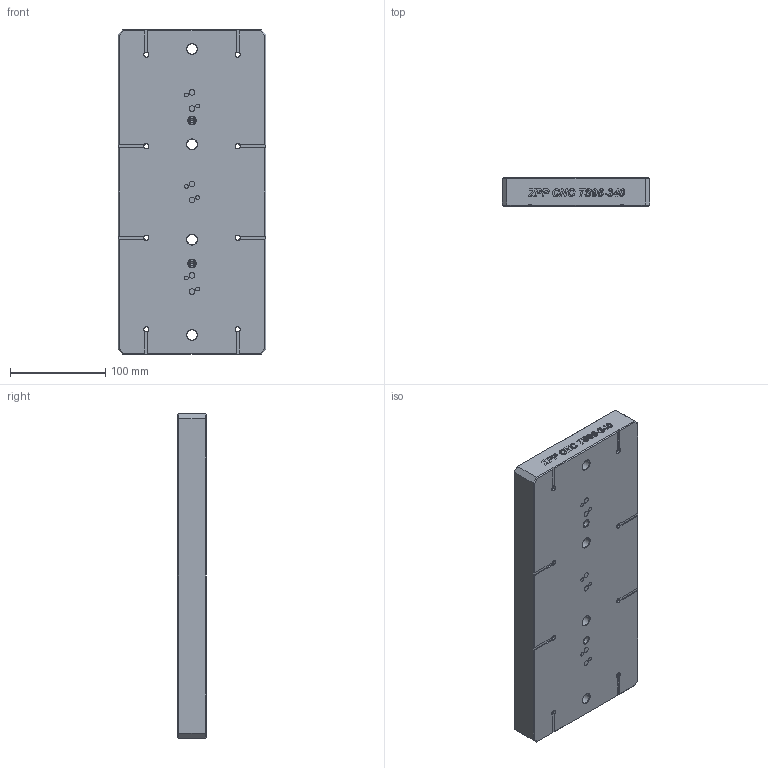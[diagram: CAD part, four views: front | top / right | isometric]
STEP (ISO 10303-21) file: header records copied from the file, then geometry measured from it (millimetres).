
FILE_DESCRIPTION((''),'2;1');
FILE_NAME('TS96-T155340','2024-07-17T20:08:52',('XF'),(''),'CREO PARAMETRIC BY PTC INC, 2022073','CREO PARAMETRIC BY PTC INC, 2022073','');
FILE_SCHEMA(('CONFIG_CONTROL_DESIGN'));
Length unit declared in the file: millimetre
Products named in the file (1): TS96-T155340
Bounding box: 155 x 30 x 340 mm (x, y, z)
Volume: 1491607 mm3; surface area: 155785.7 mm2
Topology: 1 solids, 15 shells, 929 faces, 2448 edges, 1584 vertices
Faces by surface type: extrusion 376, plane 297, cylinder 158, cone 82, torus 16
Entity records: 29869 total; most frequent: CARTESIAN_POINT 8126, ORIENTED_EDGE 4784, DIRECTION 3566, EDGE_CURVE 2420, VECTOR 1598, VERTEX_POINT 1584, LINE 1222, B_SPLINE_CURVE_WITH_KNOTS 1144
